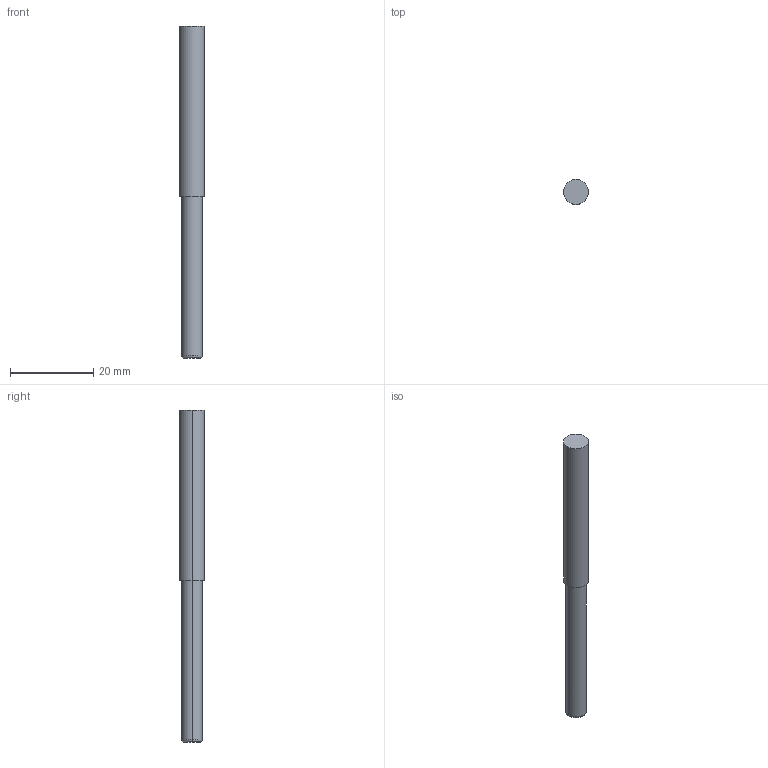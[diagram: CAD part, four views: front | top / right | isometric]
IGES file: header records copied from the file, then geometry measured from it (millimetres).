
Start section: 3D InterOp IGES (v. 2020 1.0.1), Spatial Corp. Copyright (c) 1999-2017.
Global section: file name: WZF17426_5_0.5.igs; native system: Spatial Corp.; preprocessor: 3D InterOp GENERIC/IGES 3.0; author: Noname; organization: Noname; date: 20201007.092653; units: metre
Bounding box: 6 x 6 x 80 mm (x, y, z)
Surface area: 1438.5 mm2 (no closed solid volume)
Topology: 0 solids, 0 shells, 9 faces, 32 edges, 32 vertices
Faces by surface type: revolution 6, extrusion 3
